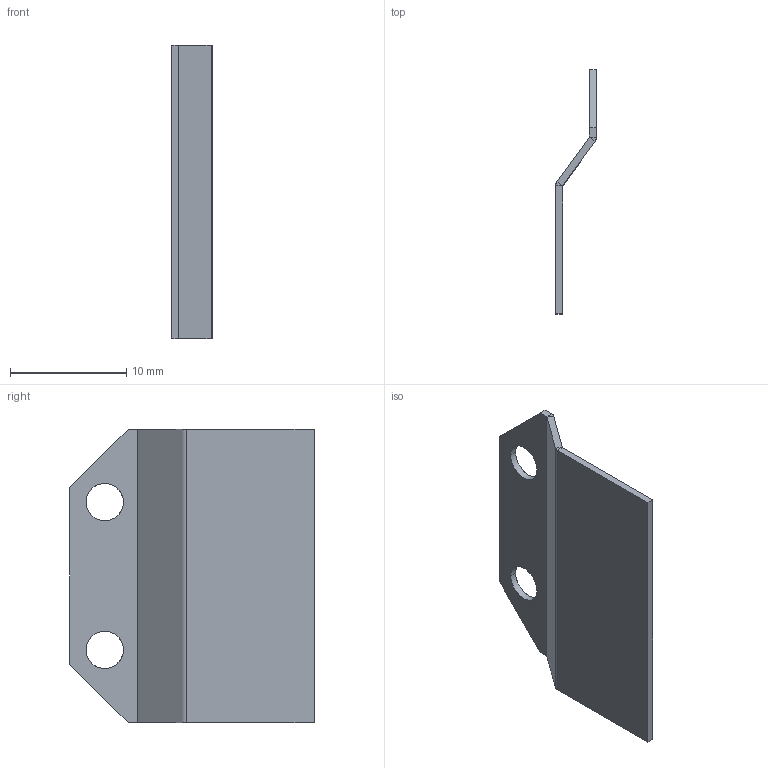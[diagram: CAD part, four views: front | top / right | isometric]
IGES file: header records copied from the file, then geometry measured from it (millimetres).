
Start section: SolidWorks IGES FILE using analytic representation for surfaces
Global section: file name: C:\Documents and Settings\lecoutey\Bureau\PR 302\302.040.10.IGS; native system: SolidWorks 2004 by SolidWorks Corporation; preprocessor: Version 5.3; author: lecoutey; date: 050408.142222; units: millimetre
Bounding box: 3.51 x 21 x 25.2 mm (x, y, z)
Surface area: 1088.3 mm2 (no closed solid volume)
Topology: 0 solids, 0 shells, 26 faces, 236 edges, 236 vertices
Faces by surface type: bspline 20, revolution 6
